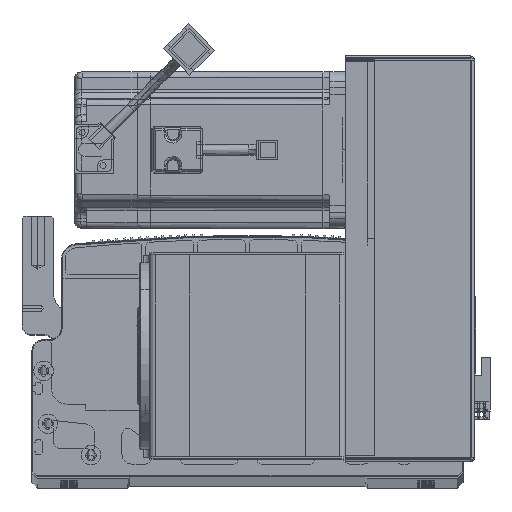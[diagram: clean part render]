
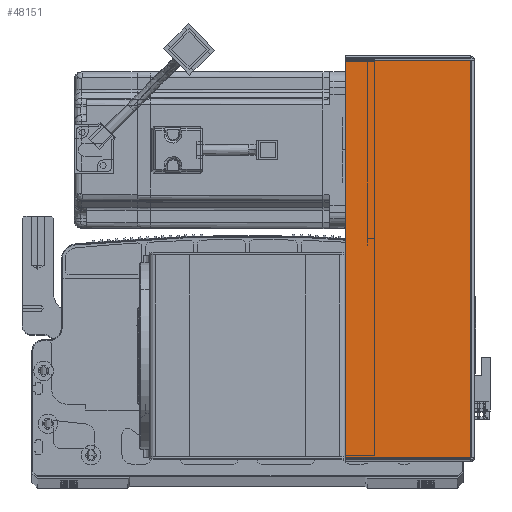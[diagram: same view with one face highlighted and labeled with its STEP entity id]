
A CAD part, top view. The second image highlights one B-rep face of the part: STEP entity #48151.
In plain terms, the highlighted planar face has unit normal (0, 0, 1) as drawn and (0, -1, 0) by its records, which use the part's own axes.
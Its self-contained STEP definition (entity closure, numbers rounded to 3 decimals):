
#3266 = EDGE_CURVE ( 'NONE', #66773, #27146, #23130, .T. ) ;
#8288 = ORIENTED_EDGE ( 'NONE', *, *, #9383, .T. ) ;
#9183 = DIRECTION ( 'NONE',  ( 1., 0., 0. ) ) ;
#9383 = EDGE_CURVE ( 'NONE', #69582, #66773, #42041, .T. ) ;
#16745 = CARTESIAN_POINT ( 'NONE',  ( 0., -1.5, -0.707 ) ) ;
#17905 = CARTESIAN_POINT ( 'NONE',  ( 64.5, -1.5, 0. ) ) ;
#18244 = DIRECTION ( 'NONE',  ( 0., 0., 1. ) ) ;
#23000 = DIRECTION ( 'NONE',  ( 1., 0., 0. ) ) ;
#23130 = LINE ( 'NONE', #17905, #52682 ) ;
#25977 = CARTESIAN_POINT ( 'NONE',  ( 0., -1.5, 0. ) ) ;
#26446 = CARTESIAN_POINT ( 'NONE',  ( 0.737, -1.5, -203.293 ) ) ;
#27146 = VERTEX_POINT ( 'NONE', #97085 ) ;
#27150 = DIRECTION ( 'NONE',  ( 0., 0., 1. ) ) ;
#31102 = AXIS2_PLACEMENT_3D ( 'NONE', #25977, #78489, #33881 ) ;
#32877 = VERTEX_POINT ( 'NONE', #53867 ) ;
#33495 = ORIENTED_EDGE ( 'NONE', *, *, #3266, .T. ) ;
#33881 = DIRECTION ( 'NONE',  ( -1., 0., 0. ) ) ;
#38169 = CARTESIAN_POINT ( 'NONE',  ( 0., -1.5, -203.293 ) ) ;
#42041 = LINE ( 'NONE', #38169, #69271 ) ;
#46457 = CARTESIAN_POINT ( 'NONE',  ( 64.5, -1.5, -203.293 ) ) ;
#48151 = ADVANCED_FACE ( 'NONE', ( #57865 ), #91677, .F. ) ;
#52682 = VECTOR ( 'NONE', #18244, 1000. ) ;
#53867 = CARTESIAN_POINT ( 'NONE',  ( 0.737, -1.5, -0.707 ) ) ;
#55593 = EDGE_LOOP ( 'NONE', ( #57206, #8288, #33495, #81687 ) ) ;
#57206 = ORIENTED_EDGE ( 'NONE', *, *, #59822, .F. ) ;
#57865 = FACE_OUTER_BOUND ( 'NONE', #55593, .T. ) ;
#59822 = EDGE_CURVE ( 'NONE', #69582, #32877, #90626, .T. ) ;
#62174 = LINE ( 'NONE', #16745, #79842 ) ;
#66773 = VERTEX_POINT ( 'NONE', #46457 ) ;
#69271 = VECTOR ( 'NONE', #23000, 1000. ) ;
#69582 = VERTEX_POINT ( 'NONE', #26446 ) ;
#71817 = VECTOR ( 'NONE', #27150, 1000. ) ;
#78489 = DIRECTION ( 'NONE',  ( 0., 1., 0. ) ) ;
#79842 = VECTOR ( 'NONE', #9183, 1000. ) ;
#80811 = EDGE_CURVE ( 'NONE', #32877, #27146, #62174, .T. ) ;
#81687 = ORIENTED_EDGE ( 'NONE', *, *, #80811, .F. ) ;
#85895 = CARTESIAN_POINT ( 'NONE',  ( 0.737, -1.5, 0. ) ) ;
#90626 = LINE ( 'NONE', #85895, #71817 ) ;
#91677 = PLANE ( 'NONE',  #31102 ) ;
#97085 = CARTESIAN_POINT ( 'NONE',  ( 64.5, -1.5, -0.707 ) ) ;
